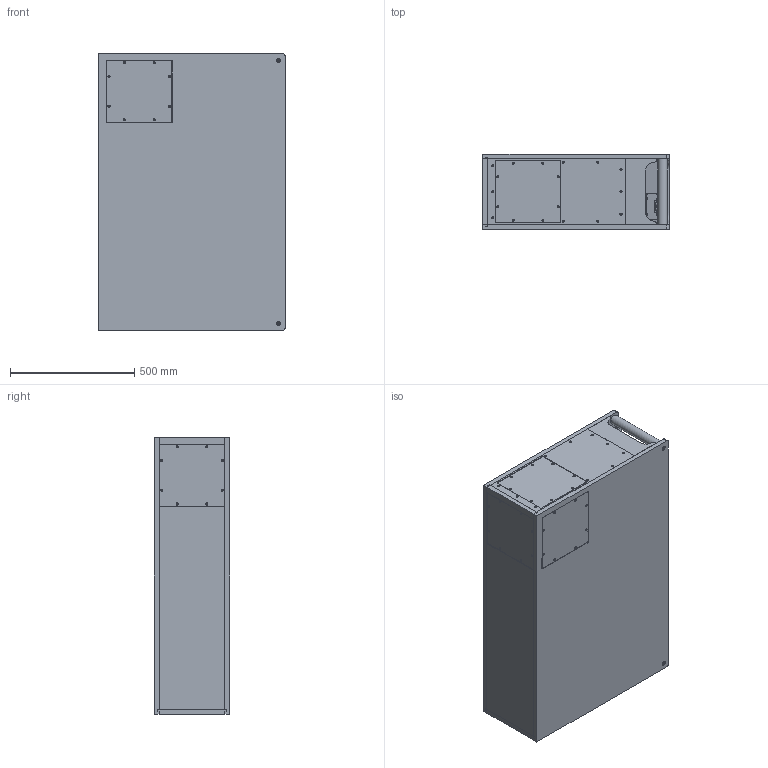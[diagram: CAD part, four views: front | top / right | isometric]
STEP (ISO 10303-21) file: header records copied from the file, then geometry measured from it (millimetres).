
FILE_DESCRIPTION (( 'STEP AP203' ), '1' );
FILE_NAME ('SRS Subwoofer ASSY Rev 0.4.STEP', '2024-08-31T22:45:50', ( '' ), ( '' ), 'SwSTEP 2.0', 'SolidWorks 2023', '' );
FILE_SCHEMA (( 'CONFIG_CONTROL_DESIGN' ));
Length unit declared in the file: millimetre
Products named in the file (1): SRS Subwoofer ASSY Rev 0.4
Bounding box: 750 x 303.1 x 1115 mm (x, y, z)
Surface area: 3183853.1 mm2 (no closed solid volume)
Topology: 0 solids, 56 shells, 293 faces, 1447 edges, 1164 vertices
Faces by surface type: plane 115, cylinder 114, cone 61, torus 3
Full cylindrical faces by diameter (mm): 4.496 x37, 5.664 x6, 5.918 x25, 11.5 x4, 38.1 x2
Entity records: 14333 total; most frequent: CARTESIAN_POINT 3738, DIRECTION 2167, ORIENTED_EDGE 1632, EDGE_CURVE 1265, VERTEX_POINT 1116, AXIS2_PLACEMENT_3D 763, VECTOR 641, LINE 641
